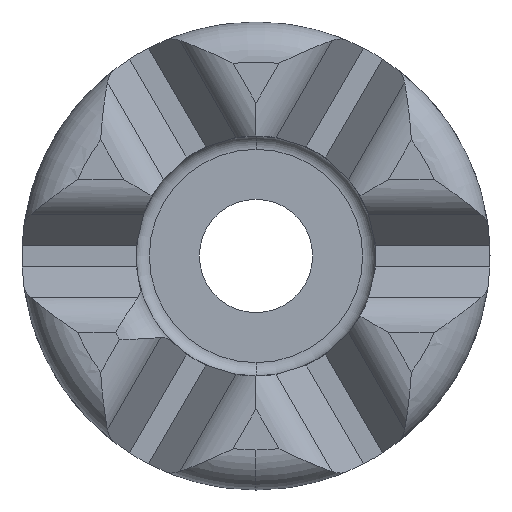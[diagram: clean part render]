
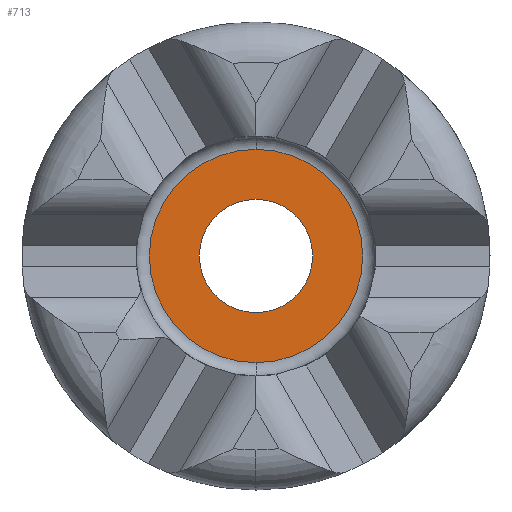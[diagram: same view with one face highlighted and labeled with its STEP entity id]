
A CAD part, left-side view. The second image highlights one B-rep face of the part: STEP entity #713.
In plain terms, the highlighted planar face has unit normal (-1, 0, 0).
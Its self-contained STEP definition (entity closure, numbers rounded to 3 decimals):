
#119 = CIRCLE ( 'NONE', #1616, 4.25 ) ;
#121 = VERTEX_POINT ( 'NONE', #838 ) ;
#147 = AXIS2_PLACEMENT_3D ( 'NONE', #2885, #2263, #2639 ) ;
#263 = DIRECTION ( 'NONE',  ( 1., 0., 0. ) ) ;
#271 = CARTESIAN_POINT ( 'NONE',  ( 960.5, 0., 0. ) ) ;
#332 = DIRECTION ( 'NONE',  ( 0., 0., 1. ) ) ;
#396 = AXIS2_PLACEMENT_3D ( 'NONE', #271, #2888, #2685 ) ;
#411 = VERTEX_POINT ( 'NONE', #2877 ) ;
#467 = FACE_OUTER_BOUND ( 'NONE', #2425, .T. ) ;
#470 = CARTESIAN_POINT ( 'NONE',  ( 960.5, 0., 8. ) ) ;
#487 = FACE_BOUND ( 'NONE', #2227, .T. ) ;
#491 = ORIENTED_EDGE ( 'NONE', *, *, #2573, .T. ) ;
#713 = ADVANCED_FACE ( 'NONE', ( #467, #487 ), #2392, .T. ) ;
#838 = CARTESIAN_POINT ( 'NONE',  ( 960.5, 0., -4.25 ) ) ;
#1003 = CARTESIAN_POINT ( 'NONE',  ( 960.5, 0., -8. ) ) ;
#1110 = ORIENTED_EDGE ( 'NONE', *, *, #2597, .T. ) ;
#1191 = EDGE_CURVE ( 'NONE', #121, #411, #119, .T. ) ;
#1210 = CIRCLE ( 'NONE', #147, 8. ) ;
#1364 = AXIS2_PLACEMENT_3D ( 'NONE', #1777, #1815, #2557 ) ;
#1476 = CARTESIAN_POINT ( 'NONE',  ( 960.5, 0., 0. ) ) ;
#1532 = DIRECTION ( 'NONE',  ( 0., 0., 1. ) ) ;
#1616 = AXIS2_PLACEMENT_3D ( 'NONE', #1476, #263, #332 ) ;
#1777 = CARTESIAN_POINT ( 'NONE',  ( 960.5, 0., 0. ) ) ;
#1815 = DIRECTION ( 'NONE',  ( 1., 0., 0. ) ) ;
#1916 = VERTEX_POINT ( 'NONE', #1003 ) ;
#1922 = CIRCLE ( 'NONE', #1364, 4.25 ) ;
#2156 = EDGE_CURVE ( 'NONE', #2776, #1916, #1210, .T. ) ;
#2223 = CARTESIAN_POINT ( 'NONE',  ( 960.5, 0., 0. ) ) ;
#2227 = EDGE_LOOP ( 'NONE', ( #491, #2401 ) ) ;
#2263 = DIRECTION ( 'NONE',  ( -1., 0., 0. ) ) ;
#2359 = AXIS2_PLACEMENT_3D ( 'NONE', #2223, #2846, #1532 ) ;
#2392 = PLANE ( 'NONE',  #2359 ) ;
#2401 = ORIENTED_EDGE ( 'NONE', *, *, #1191, .T. ) ;
#2425 = EDGE_LOOP ( 'NONE', ( #2690, #1110 ) ) ;
#2557 = DIRECTION ( 'NONE',  ( 0., 0., 1. ) ) ;
#2573 = EDGE_CURVE ( 'NONE', #411, #121, #1922, .T. ) ;
#2592 = CIRCLE ( 'NONE', #396, 8. ) ;
#2597 = EDGE_CURVE ( 'NONE', #1916, #2776, #2592, .T. ) ;
#2639 = DIRECTION ( 'NONE',  ( 0., 0., 1. ) ) ;
#2685 = DIRECTION ( 'NONE',  ( 0., 0., 1. ) ) ;
#2690 = ORIENTED_EDGE ( 'NONE', *, *, #2156, .T. ) ;
#2776 = VERTEX_POINT ( 'NONE', #470 ) ;
#2846 = DIRECTION ( 'NONE',  ( -1., 0., 0. ) ) ;
#2877 = CARTESIAN_POINT ( 'NONE',  ( 960.5, 0., 4.25 ) ) ;
#2885 = CARTESIAN_POINT ( 'NONE',  ( 960.5, 0., 0. ) ) ;
#2888 = DIRECTION ( 'NONE',  ( -1., 0., 0. ) ) ;
